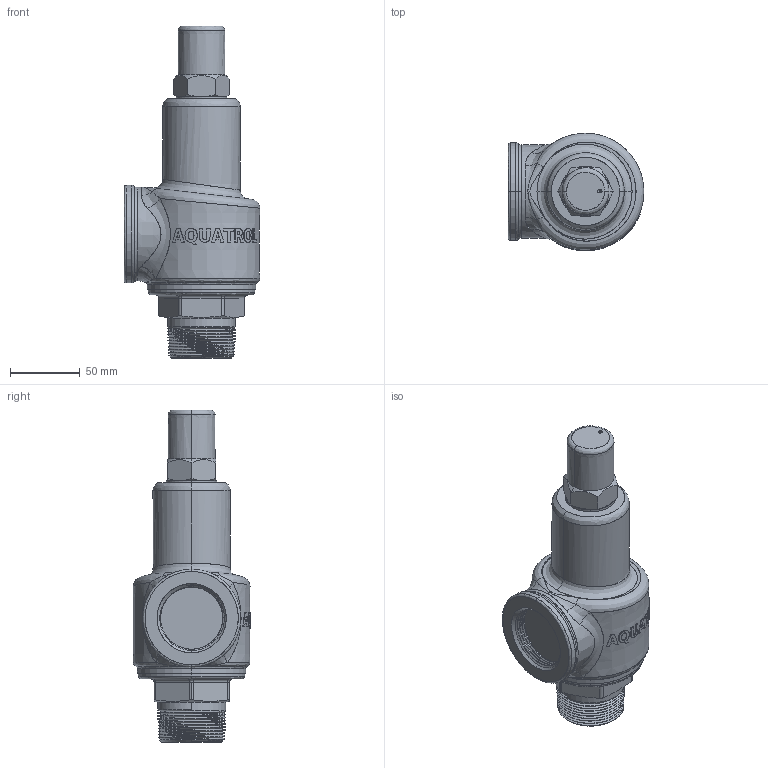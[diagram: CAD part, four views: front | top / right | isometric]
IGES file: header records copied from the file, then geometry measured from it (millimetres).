
Start section: SolidWorks IGES file using analytic representation for surfaces
Global section: file name: C:\Design\Design\Aquatrol\Customer 3D Files\Series 69 Customer Files\Series 69 1500 x 1500\Customer\Series 69 1500 x 1500.IGS; native system: SolidWorks 2015; preprocessor: SolidWorks 2015; author: Karl; date: 141208.092258; units: inch
Bounding box: 97.47 x 84.32 x 238.3 mm (x, y, z)
Surface area: 61780 mm2 (no closed solid volume)
Topology: 0 solids, 0 shells, 233 faces, 6289 edges, 6289 vertices
Faces by surface type: bspline 146, revolution 87
